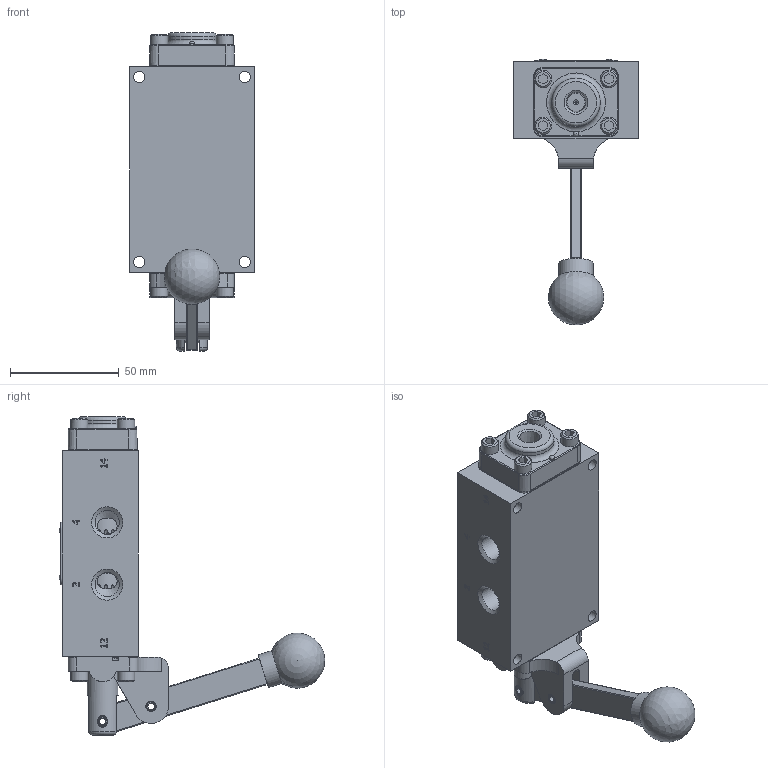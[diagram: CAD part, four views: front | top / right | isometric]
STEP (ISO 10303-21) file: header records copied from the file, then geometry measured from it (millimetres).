
FILE_DESCRIPTION(/* description */ (''),/* implementation_level */ '2;1');
FILE_NAME(/* name */ 'HR2HT.stp',/* time_stamp */ '2025-02-12T06:52:31-05:00',/* author */ ('rmckenna'),/* organization */ (''),/* preprocessor_version */ 'ST-DEVELOPER v20',/* originating_system */ 'Autodesk Inventor 2024',/* authorisation */ '');
FILE_SCHEMA (('AUTOMOTIVE_DESIGN { 1 0 10303 214 3 1 1 }'));
Length unit declared in the file: centimetre
Products named in the file (1): Part40
Bounding box: 57.15 x 121.88 x 146.21 mm (x, y, z)
Volume: 208793.3 mm3; surface area: 61650.5 mm2
Topology: 1 solids, 31 shells, 1219 faces, 2998 edges, 1913 vertices
Faces by surface type: plane 537, cone 263, cylinder 218, bspline 102, torus 95, sphere 4
Full cylindrical faces by diameter (mm): 1.016 x1, 2.07 x2, 2.261 x2, 2.362 x2, 2.381 x2, 2.778 x2, 3.175 x2, 3.683 x10, 3.912 x3, 4.75 x2, 4.763 x2, 4.826 x8, 4.978 x4, 5.055 x1, 5.156 x12, 5.41 x1, 7.798 x1, 7.938 x8, 9.922 x2, 11.113 x6, 11.303 x2, 14.275 x1, 14.986 x1, 15.748 x1, 18.618 x1, 18.745 x12, 19.177 x2, 23.825 x6
Entity records: 40765 total; most frequent: CARTESIAN_POINT 11182, ORIENTED_EDGE 5952, DIRECTION 5618, EDGE_CURVE 2976, AXIS2_PLACEMENT_3D 2050, VERTEX_POINT 1913, LINE 1518, VECTOR 1518
